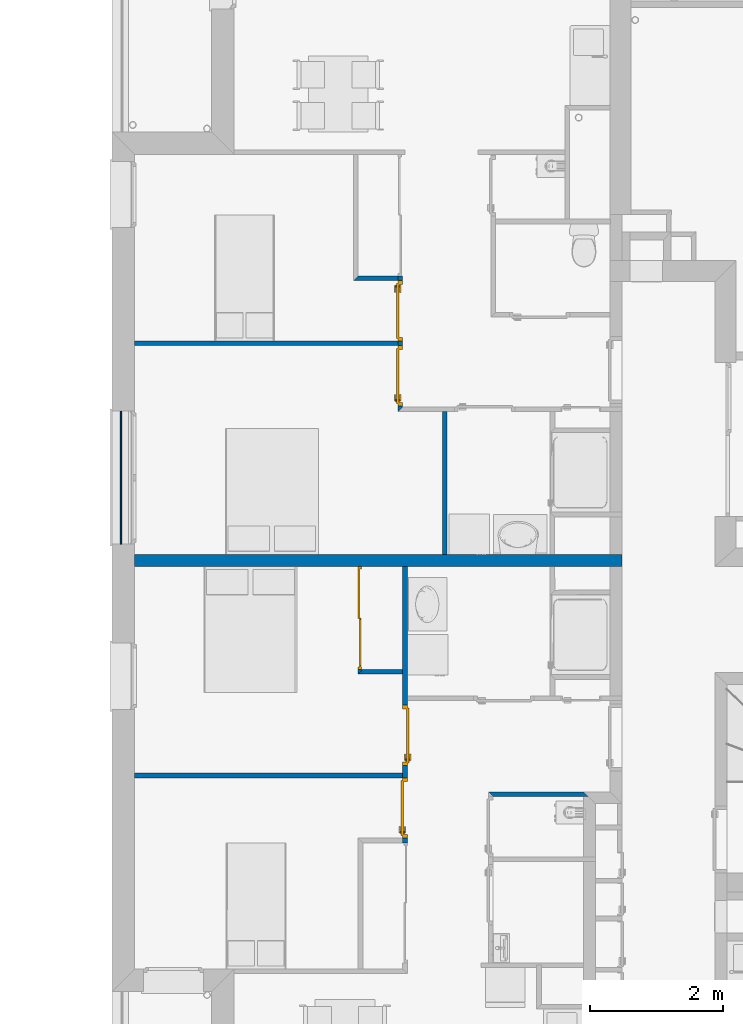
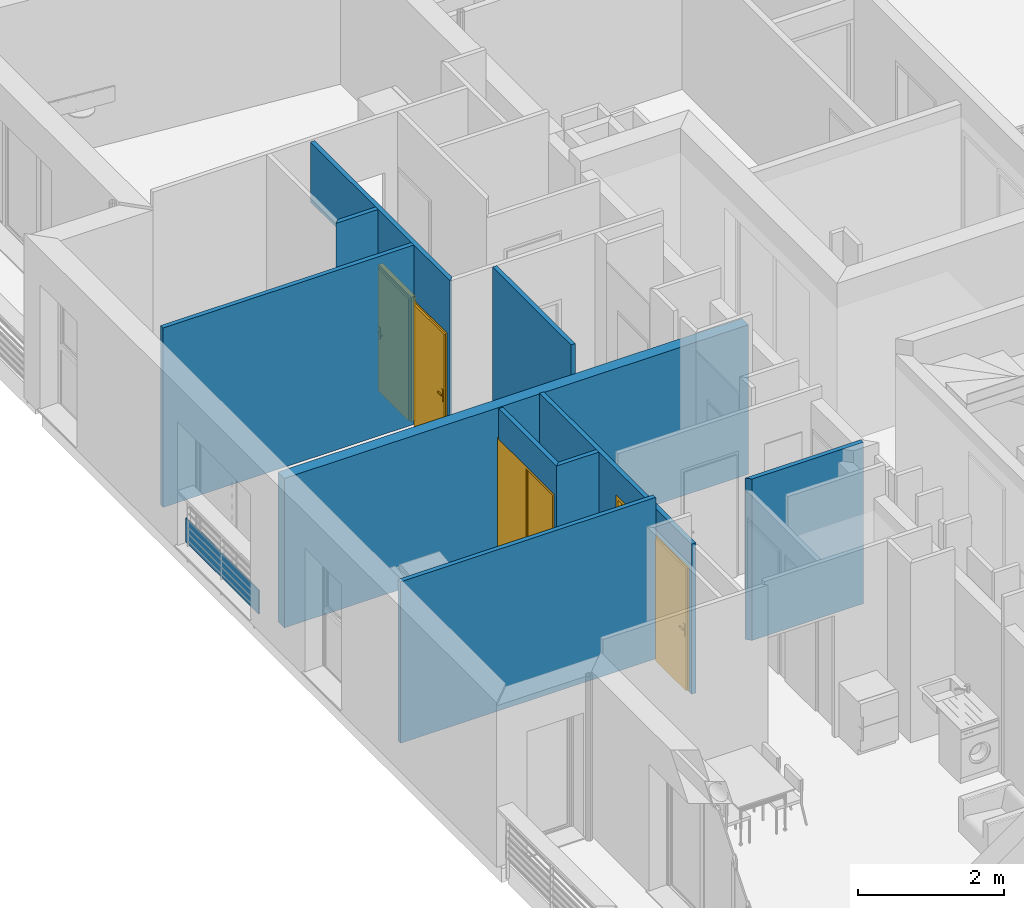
# One storey, part 49 of 171: 11 walls, 5 doors, 6 openings.
"""IFC2X3 building model written with IfcOpenShell, lengths in millimetres."""

from ifc_helpers import new_model, entity, si_unit, converted_unit, derived_unit, money_unit, direction, frame, origin_with_axes, origin_2d_with_axis, place, context, subcontext, project, spatial, polyline, rectangle, outline, extrude, open_shell, faceted_brep, surface_model, source, transform, mapped, material, layer, layer_set, layer_usage, type_object, element, fill, save


model = new_model("IFC2X3")

# Units and contexts
model_context = context("Model", 3, precision=0.01, world=origin_with_axes(), true_north=direction((0.0, 1.0)))
body_context = subcontext(model_context, "Body", "Model", "MODEL_VIEW")
ifc_project = project(units=[si_unit("LENGTHUNIT", "METRE", prefix="MILLI"), si_unit("AREAUNIT", "SQUARE_METRE"), si_unit("VOLUMEUNIT", "CUBIC_METRE"), converted_unit("PLANEANGLEUNIT", "DEGREE", entity("IfcPlaneAngleMeasure", 0.0174532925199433), si_unit("PLANEANGLEUNIT", "RADIAN"), dimensions=[0, 0, 0, 0, 0, 0, 0]), money_unit("USD"), converted_unit("TIMEUNIT", "Year", entity("IfcTimeMeasure", 31557600.0), si_unit("TIMEUNIT", "SECOND"), dimensions=[0, 0, 1, 0, 0, 0, 0]), si_unit("MASSUNIT", "GRAM", prefix="KILO"), si_unit("THERMODYNAMICTEMPERATUREUNIT", "DEGREE_CELSIUS"), si_unit("LUMINOUSINTENSITYUNIT", "LUMEN"), si_unit("ENERGYUNIT", "JOULE", prefix="MEGA"), derived_unit("THERMALCONDUCTANCEUNIT", [(si_unit("POWERUNIT", "WATT"), 1), (si_unit("LENGTHUNIT", "METRE"), -1), (si_unit("THERMODYNAMICTEMPERATUREUNIT", "KELVIN"), -1)]), derived_unit("SPECIFICHEATCAPACITYUNIT", [(si_unit("ENERGYUNIT", "JOULE"), 1), (si_unit("MASSUNIT", "GRAM", prefix="KILO"), -1), (si_unit("THERMODYNAMICTEMPERATUREUNIT", "KELVIN"), -1)]), derived_unit("MASSDENSITYUNIT", [(si_unit("MASSUNIT", "GRAM", prefix="KILO"), 1), (si_unit("VOLUMEUNIT", "CUBIC_METRE"), -1)])], contexts=[model_context])

# Site, building, storey
site_placement = place(None, origin_with_axes())
site = spatial("IfcSite", under=ifc_project, at=site_placement, Name="Site", CompositionType="ELEMENT")
building_placement = place(site_placement, origin_with_axes())
building = spatial("IfcBuilding", under=site, at=building_placement, Name="Bâtiment", CompositionType="ELEMENT")
storey_placement = place(building_placement, frame((0.0, 0.0, 3000.0), z_axis=(0.0, 0.0, 1.0), x_axis=(1.0, 0.0, 0.0)))
storey = spatial("IfcBuildingStorey", under=building, at=storey_placement, Name="rdc", CompositionType="ELEMENT", Elevation=3000.0)

# Wall
ifc_material_1 = material(Name="Parpaing 314940890")
ifc_layer_1 = layer(ifc_material_1, 180.0, ventilated="UNKNOWN")
ifc_layer_set_1 = layer_set([ifc_layer_1], Name="Beton  18 0018356637")
ifc_layer_usage_1 = layer_usage(ifc_layer_set_1, "AXIS2", "POSITIVE", 0.0)
wall_type_1 = type_object("IfcWallType", Name="Beton  18 0018356637 180", PredefinedType="NOTDEFINED")
wall_1_placement = place(storey_placement, frame((2216634.274551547, -632613.5610779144, 0.0), z_axis=(0.0, 0.0, 1.0), x_axis=(0.9999999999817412, 6.042987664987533e-06, 0.0)))
element("IfcWallStandardCase", 1, at=wall_1_placement, inside=storey, type_object=wall_type_1, material=ifc_layer_usage_1, Name="Mur-142", context=body_context, shape_type="SweptSolid", body=[
    extrude(outline(polyline([(340.0000000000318, 0.0), (7678.105647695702, 0.0), (7678.105647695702, 180.0000000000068), (340.0000272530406, 180.0000000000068), (340.0000000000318, 0.0)])), origin_with_axes(), (0.0, 0.0, 1.0), 2500.0),
])

# Wall, openings, doors
ifc_material_2 = material(Name="Hachure solide 268963992")
ifc_layer_2 = layer(ifc_material_2, 70.0, ventilated="UNKNOWN")
ifc_layer_set_2 = layer_set([ifc_layer_2], Name="Cloison 70 0826278243")
ifc_layer_usage_2 = layer_usage(ifc_layer_set_2, "AXIS2", "NEGATIVE", 70.0)
wall_type_2 = type_object("IfcWallType", Name="Cloison 70 0826278243 70", PredefinedType="NOTDEFINED")
wall_2_placement = place(storey_placement, frame((2221010.881835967, -632613.5346301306, 0.0), z_axis=(0.0, 0.0, 1.0), x_axis=(-2.570276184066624e-07, -0.999999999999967, 0.0)))
wall_2 = element("IfcWallStandardCase", 2, at=wall_2_placement, inside=storey, type_object=wall_type_2, material=ifc_layer_usage_2, Name="Mur-149", context=body_context, shape_type="SweptSolid", body=[
    extrude(outline(polyline([(0.0, 0.0), (4162.758897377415, 0.0), (4162.758897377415, 70.00000000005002), (-0.0004410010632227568, 70.00000000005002), (0.0, 0.0)])), origin_with_axes(), (0.0, 0.0, 1.0), 2512.25122490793),
])
opening_1_placement = place(wall_2_placement, frame((2544.415063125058, 0.0, 0.0), z_axis=(0.0, 0.0, 1.0), x_axis=(1.0, 0.0, 0.0)))
opening_1 = element("IfcOpeningElement", 3, at=opening_1_placement, cuts=wall_2, Name="Por-275", context=body_context, shape_type="SweptSolid", body=[
    extrude(rectangle(XDim=910.0, YDim=2080.0, at=origin_2d_with_axis()), frame((0.0, -70.00000000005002, 1040.0), z_axis=(0.0, -1.0, 0.0), x_axis=(-1.0, 0.0, 0.0)), (0.0, 0.0, -1.0), 140.0),
])
opening_2_placement = place(wall_2_placement, frame((3637.758897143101, -1.13686837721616e-10, 0.0), z_axis=(0.0, 0.0, 1.0), x_axis=(1.0, 0.0, 0.0)))
opening_2 = element("IfcOpeningElement", 4, at=opening_2_placement, cuts=wall_2, Name="Por-276", context=body_context, shape_type="SweptSolid", body=[
    extrude(rectangle(XDim=910.0, YDim=2080.0, at=origin_2d_with_axis()), frame((0.0, 70.00000000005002, 1040.0), z_axis=(0.0, -1.0, 0.0), x_axis=(-1.0, 0.0, 0.0)), (0.0, 0.0, 1.0), 140.0),
])
door_style_1 = type_object("IfcDoorStyle", Name="Porte_1v", ConstructionType="NOTDEFINED", OperationType="NOTDEFINED", ParameterTakesPrecedence=False, Sizeable=False)
shared_shape_1 = source(origin_with_axes(), body_context, "Body", "Brep", [
    faceted_brep([(455.0, 0.0, 0.0), (415.0000000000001, 0.0, 0.0), (415.0000000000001, 0.0, 2040.0), (-415.0000000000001, 0.0, 2040.0), (-415.0000000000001, 0.0, 0.0), (-455.0, 0.0, 0.0), (-455.0, 0.0, 2080.0), (455.0, 0.0, 2080.0), (455.0, -70.0, 0.0), (400.0, -70.0, 0.0), (400.0, -15.0, 0.0), (415.0000000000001, -15.0, 0.0), (415.0000000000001, -15.0, 2040.0), (-415.0000000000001, -15.0, 2040.0), (-415.0000000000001, -15.0, 0.0), (-400.0, -15.0, 0.0), (-400.0, -70.0, 0.0), (-455.0, -70.0, 0.0), (-455.0, -70.0, 2080.0), (455.0, -70.0, 2080.0), (-400.0, -70.0, 2025.0), (400.0, -70.0, 2025.0), (400.0, -15.0, 2025.0), (-400.0, -15.0, 2025.0)], [[[0, 1, 2, 3, 4, 5, 6, 7]], [[0, 8, 9, 10, 11, 1]], [[1, 11, 12, 2]], [[2, 12, 13, 3]], [[3, 13, 14, 4]], [[5, 4, 14, 15, 16, 17]], [[18, 6, 5, 17]], [[19, 7, 6, 18]], [[8, 0, 7, 19]], [[9, 8, 19, 18, 17, 16, 20, 21]], [[10, 9, 21, 22]], [[11, 10, 22, 23, 15, 14, 13, 12]], [[23, 20, 16, 15]], [[22, 21, 20, 23]]]),
    faceted_brep([(-350.0000000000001, -15.0, 900.0), (-390.0, -15.0, 900.0), (-390.0, -15.0, 1100.0), (-350.0000000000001, -15.0, 1100.0), (-350.0000000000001, -25.0, 900.0), (-390.0, -25.0, 900.0), (-390.0, -25.0, 1100.0), (-350.0000000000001, -25.0, 1100.0)], [[[0, 1, 2, 3]], [[1, 0, 4, 5]], [[2, 1, 5, 6]], [[3, 2, 6, 7]], [[0, 3, 7, 4]], [[5, 4, 7, 6]]]),
    faceted_brep([(-280.0, -25.0, 1000.0), (-380.0, -25.0, 1000.0), (-380.0, -25.0, 1020.0), (-280.0, -25.0, 1020.0), (-280.0, -45.0, 1000.0), (-380.0, -45.0, 1000.0), (-380.0, -45.0, 1020.0), (-280.0, -45.0, 1020.0)], [[[0, 1, 2, 3]], [[1, 0, 4, 5]], [[2, 1, 5, 6]], [[3, 2, 6, 7]], [[0, 3, 7, 4]], [[5, 4, 7, 6]]]),
    faceted_brep([(-350.0000000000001, 35.0, 900.0), (-390.0, 35.0, 900.0), (-390.0, 35.0, 1100.0), (-350.0000000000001, 35.0, 1100.0), (-350.0000000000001, 25.0, 900.0), (-390.0, 25.0, 900.0), (-390.0, 25.0, 1100.0), (-350.0000000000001, 25.0, 1100.0)], [[[0, 1, 2, 3]], [[1, 0, 4, 5]], [[2, 1, 5, 6]], [[3, 2, 6, 7]], [[0, 3, 7, 4]], [[5, 4, 7, 6]]]),
    faceted_brep([(-280.0, 55.00000000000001, 1000.0), (-380.0, 55.00000000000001, 1000.0), (-380.0, 55.00000000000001, 1020.0), (-280.0, 55.00000000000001, 1020.0), (-280.0, 35.0, 1000.0), (-380.0, 35.0, 1000.0), (-380.0, 35.0, 1020.0), (-280.0, 35.0, 1020.0)], [[[0, 1, 2, 3]], [[1, 0, 4, 5]], [[2, 1, 5, 6]], [[3, 2, 6, 7]], [[0, 3, 7, 4]], [[5, 4, 7, 6]]]),
    faceted_brep([(-415.0000000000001, 25.0, 0.0), (415.0000000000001, 25.0, 0.0), (415.0000000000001, -15.0, 0.0), (-415.0000000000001, -15.0, 0.0), (-415.0000000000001, 25.0, 2040.0), (415.0000000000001, 25.0, 2040.0), (415.0000000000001, -15.0, 2040.0), (-415.0000000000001, -15.0, 2040.0)], [[[0, 1, 2, 3]], [[0, 4, 5, 1]], [[1, 5, 6, 2]], [[3, 2, 6, 7]], [[4, 0, 3, 7]], [[5, 4, 7, 6]]]),
])
door_1_placement = place(opening_2_placement, frame((415.0000000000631, 0.0, 0.0), z_axis=(0.0, 0.0, 1.0), x_axis=(-1.0, 0.0, 0.0)))
door_1 = element("IfcDoor", 5, at=door_1_placement, inside=storey, type_object=door_style_1, Name="Por-276", OverallHeight=2040.0, OverallWidth=830.0, context=body_context, shape_type="MappedRepresentation", body=[
    mapped(shared_shape_1, transform((415.0000000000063, 0.0, 0.0))),
])
fill(opening_2, door_1)
shared_shape_2 = source(origin_with_axes(), body_context, "Body", "Brep", [
    faceted_brep([(-454.9999999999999, 0.0, 0.0), (-454.9999999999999, 0.0, 2080.0), (454.9999999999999, 0.0, 2080.0), (454.9999999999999, 0.0, 0.0), (414.9999999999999, 0.0, 0.0), (414.9999999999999, 0.0, 2040.0), (-414.9999999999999, 0.0, 2040.0), (-414.9999999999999, 0.0, 0.0), (-454.9999999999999, -69.99999999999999, 0.0), (-454.9999999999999, -69.99999999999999, 2080.0), (454.9999999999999, -69.99999999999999, 2080.0), (454.9999999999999, -69.99999999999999, 0.0), (399.9999999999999, -69.99999999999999, 0.0), (399.9999999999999, -15.0, 0.0), (414.9999999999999, -15.0, 0.0), (414.9999999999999, -15.0, 2040.0), (-414.9999999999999, -14.99999999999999, 2040.0), (-414.9999999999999, -14.99999999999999, 0.0), (-399.9999999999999, -14.99999999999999, 0.0), (-399.9999999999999, -69.99999999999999, 0.0), (-399.9999999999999, -69.99999999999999, 2025.0), (399.9999999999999, -69.99999999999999, 2025.0), (399.9999999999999, -15.0, 2025.0), (-399.9999999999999, -14.99999999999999, 2025.0)], [[[0, 1, 2, 3, 4, 5, 6, 7]], [[8, 9, 1, 0]], [[9, 10, 2, 1]], [[10, 11, 3, 2]], [[3, 11, 12, 13, 14, 4]], [[5, 4, 14, 15]], [[6, 5, 15, 16]], [[7, 6, 16, 17]], [[0, 7, 17, 18, 19, 8]], [[19, 20, 21, 12, 11, 10, 9, 8]], [[22, 13, 12, 21]], [[17, 16, 15, 14, 13, 22, 23, 18]], [[18, 23, 20, 19]], [[23, 22, 21, 20]]]),
    faceted_brep([(350.0, -15.0, 900.0), (350.0, -15.0, 1100.0), (389.9999999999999, -15.0, 1100.0), (389.9999999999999, -15.0, 900.0), (350.0, -25.0, 900.0), (350.0, -25.0, 1100.0), (389.9999999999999, -25.0, 1100.0), (389.9999999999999, -25.0, 900.0)], [[[0, 1, 2, 3]], [[0, 4, 5, 1]], [[1, 5, 6, 2]], [[2, 6, 7, 3]], [[3, 7, 4, 0]], [[7, 6, 5, 4]]]),
    faceted_brep([(279.9999999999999, -25.0, 1000.0), (279.9999999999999, -25.0, 1020.0), (379.9999999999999, -25.0, 1020.0), (379.9999999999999, -25.0, 1000.0), (279.9999999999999, -45.0, 1000.0), (279.9999999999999, -45.0, 1020.0), (379.9999999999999, -45.0, 1020.0), (379.9999999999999, -45.0, 1000.0)], [[[0, 1, 2, 3]], [[0, 4, 5, 1]], [[1, 5, 6, 2]], [[2, 6, 7, 3]], [[3, 7, 4, 0]], [[7, 6, 5, 4]]]),
    faceted_brep([(350.0, 34.99999999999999, 900.0), (350.0, 34.99999999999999, 1100.0), (389.9999999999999, 34.99999999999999, 1100.0), (389.9999999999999, 34.99999999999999, 900.0), (350.0, 24.99999999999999, 900.0), (350.0, 24.99999999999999, 1100.0), (389.9999999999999, 24.99999999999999, 1100.0), (389.9999999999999, 24.99999999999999, 900.0)], [[[0, 1, 2, 3]], [[0, 4, 5, 1]], [[1, 5, 6, 2]], [[2, 6, 7, 3]], [[3, 7, 4, 0]], [[7, 6, 5, 4]]]),
    faceted_brep([(279.9999999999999, 54.99999999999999, 1000.0), (279.9999999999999, 54.99999999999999, 1020.0), (379.9999999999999, 54.99999999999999, 1020.0), (379.9999999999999, 54.99999999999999, 1000.0), (279.9999999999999, 34.99999999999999, 1000.0), (279.9999999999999, 34.99999999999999, 1020.0), (379.9999999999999, 34.99999999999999, 1020.0), (379.9999999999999, 34.99999999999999, 1000.0)], [[[0, 1, 2, 3]], [[0, 4, 5, 1]], [[1, 5, 6, 2]], [[2, 6, 7, 3]], [[3, 7, 4, 0]], [[7, 6, 5, 4]]]),
    faceted_brep([(414.9999999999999, 24.99999999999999, 0.0), (414.9999999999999, -15.0, 0.0), (-414.9999999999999, -14.99999999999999, 0.0), (-414.9999999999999, 25.0, 0.0), (414.9999999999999, 24.99999999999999, 2040.0), (414.9999999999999, -15.0, 2040.0), (-414.9999999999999, -14.99999999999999, 2040.0), (-414.9999999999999, 25.0, 2040.0)], [[[0, 1, 2, 3]], [[4, 5, 1, 0]], [[1, 5, 6, 2]], [[3, 2, 6, 7]], [[0, 3, 7, 4]], [[7, 6, 5, 4]]]),
])
door_2_placement = place(opening_1_placement, frame((-415.0000000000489, -1.13686837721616e-10, 0.0), z_axis=(0.0, 0.0, 1.0), x_axis=(1.0, 0.0, 0.0)))
door_2 = element("IfcDoor", 6, at=door_2_placement, inside=storey, type_object=door_style_1, Name="Por-275", OverallHeight=2040.0, OverallWidth=830.0, context=body_context, shape_type="MappedRepresentation", body=[
    mapped(shared_shape_2, transform((415.0000000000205, 70.00000000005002, 0.0))),
])
fill(opening_1, door_2)

# Walls
ifc_layer_usage_3 = layer_usage(ifc_layer_set_2, "AXIS2", "POSITIVE", -70.0)
wall_3_placement = place(storey_placement, frame((2221610.801172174, -632613.534630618, 0.0), z_axis=(0.0, 0.0, 1.0), x_axis=(9.654924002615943e-08, 0.9999999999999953, 0.0)))
element("IfcWallStandardCase", 7, at=wall_3_placement, inside=storey, type_object=wall_type_2, material=ifc_layer_usage_3, Name="Mur-149", context=body_context, shape_type="SweptSolid", body=[
    extrude(outline(polyline([(180.0040555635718, -70.00000000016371), (2330.612741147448, -70.00000000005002), (2330.612734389, 0.0), (180.0036257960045, 0.0), (180.0040555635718, -70.00000000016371)])), origin_with_axes(), (0.0, 0.0, 1.0), 3000.0),
])
ifc_layer_usage_4 = layer_usage(ifc_layer_set_2, "AXIS2", "NEGATIVE", 70.0)
wall_4_placement = place(storey_placement, frame((2224312.39906677, -636007.2981221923, 0.0), z_axis=(0.0, 0.0, 1.0), x_axis=(-0.9999999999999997, 2.755947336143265e-08, 0.0)))
element("IfcWallStandardCase", 8, at=wall_4_placement, inside=storey, type_object=wall_type_2, material=ifc_layer_usage_4, Name="Mur-149", context=body_context, shape_type="SweptSolid", body=[
    extrude(outline(polyline([(180.0000000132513, 0.0), (2009.999836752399, 0.0), (1939.999852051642, 69.99999999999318), (179.9993479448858, 69.99999999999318), (180.0000000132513, 0.0)])), origin_with_axes(), (0.0, 0.0, 1.0), 2700.0),
])
ifc_layer_usage_5 = layer_usage(ifc_layer_set_2, "AXIS2", "NEGATIVE", 70.0)
wall_5_placement = place(storey_placement, frame((2221010.880061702, -635726.2935272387, 0.0), z_axis=(0.0, 0.0, 1.0), x_axis=(-0.9999999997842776, 2.077125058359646e-05, 0.0)))
element("IfcWallStandardCase", 9, at=wall_5_placement, inside=storey, type_object=wall_type_2, material=ifc_layer_usage_5, Name="Mur-149", context=body_context, shape_type="SweptSolid", body=[
    extrude(outline(polyline([(-0.0009742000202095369, 0.0), (4036.587172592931, 0.0), (4036.585306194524, 69.99999999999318), (-0.002410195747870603, 69.99999999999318), (-0.0009742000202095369, 0.0)])), origin_with_axes(), (0.0, 0.0, 1.0), 2700.0),
])

# Wall, openings, doors
ifc_layer_usage_6 = layer_usage(ifc_layer_set_2, "AXIS2", "POSITIVE", -70.0)
wall_6_placement = place(storey_placement, frame((2220940.801403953, -630212.921896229, 0.0), z_axis=(0.0, 0.0, 1.0), x_axis=(9.654924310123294e-08, 0.9999999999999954, 0.0)))
wall_6 = element("IfcWallStandardCase", 10, at=wall_6_placement, inside=storey, type_object=wall_type_2, material=ifc_layer_usage_6, Name="Mur-149", context=body_context, shape_type="SweptSolid", body=[
    extrude(outline(polyline([(6.758448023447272e-06, -70.00000000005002), (3761.707347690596, -70.00000000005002), (3761.707347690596, 0.0), (-70.00000000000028, 0.0), (6.758448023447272e-06, -70.00000000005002)])), origin_with_axes(), (0.0, 0.0, 1.0), 3000.0),
])
opening_3_placement = place(wall_6_placement, frame((1447.185628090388, 2.273736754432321e-10, 0.0), z_axis=(0.0, 0.0, 1.0), x_axis=(1.0, 0.0, 0.0)))
opening_3 = element("IfcOpeningElement", 11, at=opening_3_placement, cuts=wall_6, Name="Por-276", context=body_context, shape_type="SweptSolid", body=[
    extrude(rectangle(XDim=910.0, YDim=2080.0, at=origin_2d_with_axis()), frame((0.0, -70.00000000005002, 1040.0), z_axis=(9.654924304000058e-08, -0.9999999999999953, 0.0), x_axis=(-0.9999999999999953, -9.654924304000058e-08, 0.0)), (0.0, 0.0, -1.0), 140.0),
])
opening_4_placement = place(wall_6_placement, frame((467.1856280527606, 2.273736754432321e-10, 0.0), z_axis=(0.0, 0.0, 1.0), x_axis=(1.0, 0.0, 0.0)))
opening_4 = element("IfcOpeningElement", 12, at=opening_4_placement, cuts=wall_6, Name="Por-275", context=body_context, shape_type="SweptSolid", body=[
    extrude(rectangle(XDim=910.0, YDim=2080.0, at=origin_2d_with_axis()), frame((0.0, -70.00000000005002, 1040.0), z_axis=(-9.654924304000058e-08, 0.9999999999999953, 0.0), x_axis=(0.9999999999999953, 9.654924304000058e-08, 0.0)), (0.0, 0.0, 1.0), 140.0),
])
opening_5_placement = place(wall_6_placement, frame((2886.946422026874, 2.273736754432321e-10, 0.0), z_axis=(0.0, 0.0, 1.0), x_axis=(1.0, 0.0, 0.0)))
element("IfcOpeningElement", 13, at=opening_5_placement, cuts=wall_6, Name="Por-321", context=body_context, shape_type="SweptSolid", body=[
    extrude(rectangle(XDim=1829.521851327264, YDim=2000.0, at=origin_2d_with_axis()), frame((-6.758462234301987e-06, 0.0002787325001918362, 1000.0), z_axis=(9.654924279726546e-08, -0.9999999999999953, 0.0), x_axis=(0.9999999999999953, 9.654924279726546e-08, 0.0)), (0.0, 0.0, -1.0), 70.0),
    extrude(rectangle(XDim=1829.521851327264, YDim=2000.0, at=origin_2d_with_axis()), frame((-6.758462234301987e-06, 0.0002787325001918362, 1000.0), z_axis=(-9.654924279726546e-08, 0.9999999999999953, 0.0), x_axis=(0.9999999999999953, 9.654924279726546e-08, 0.0)), (0.0, 0.0, -1.0), 70.0),
])
door_3_placement = place(opening_4_placement, frame((-415.0000000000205, 2.273736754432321e-10, 0.0), z_axis=(0.0, 0.0, 1.0), x_axis=(1.0, 0.0, 0.0)))
door_3 = element("IfcDoor", 14, at=door_3_placement, inside=storey, type_object=door_style_1, Name="Por-275", OverallHeight=2040.0, OverallWidth=830.0, context=body_context, shape_type="MappedRepresentation", body=[
    mapped(shared_shape_1, transform((414.9999932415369, 4.510638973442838e-05, 0.0))),
])
fill(opening_4, door_3)
door_4_placement = place(opening_3_placement, frame((-415.000000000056, -1.13686837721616e-10, 0.0), z_axis=(0.0, 0.0, 1.0), x_axis=(1.0, 0.0, 0.0)))
door_4 = element("IfcDoor", 15, at=door_4_placement, inside=storey, type_object=door_style_1, Name="Por-276", OverallHeight=2040.0, OverallWidth=830.0, context=body_context, shape_type="MappedRepresentation", body=[
    mapped(shared_shape_2, transform((414.999993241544, 0.0001397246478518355, 0.0))),
])
fill(opening_3, door_4)

# Walls
ifc_layer_usage_7 = layer_usage(ifc_layer_set_2, "AXIS2", "POSITIVE", -70.0)
wall_7_placement = place(storey_placement, frame((2221010.800412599, -629290.7358451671, 0.0), z_axis=(0.0, 0.0, 1.0), x_axis=(-0.9999999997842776, -2.077125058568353e-05, 0.0)))
element("IfcWallStandardCase", 16, at=wall_7_placement, inside=storey, type_object=wall_type_2, material=ifc_layer_usage_7, Name="Mur-149", context=body_context, shape_type="SweptSolid", body=[
    extrude(outline(polyline([(0.0, -70.00000000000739), (4036.544678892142, -70.00000000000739), (4036.544678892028, 0.0), (0.0, 0.0), (0.0, -70.00000000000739)])), origin_with_axes(), (0.0, 0.0, 1.0), 3000.0),
])
ifc_layer_usage_8 = layer_usage(ifc_layer_set_2, "AXIS2", "POSITIVE", -70.0)
wall_8_placement = place(storey_placement, frame((2220940.800115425, -628310.7362681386, 0.0), z_axis=(0.0, 0.0, 1.0), x_axis=(-0.9999999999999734, -2.308093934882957e-07, 0.0)))
element("IfcWallStandardCase", 17, at=wall_8_placement, inside=storey, type_object=wall_type_2, material=ifc_layer_usage_8, Name="Mur-149", context=body_context, shape_type="SweptSolid", body=[
    extrude(outline(polyline([(-0.001495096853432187, -70.00000000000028), (599.9999211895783, -70.00000000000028), (669.9999999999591, 0.0), (-0.001472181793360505, 0.0), (-0.001495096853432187, -70.00000000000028)])), origin_with_axes(), (0.0, 0.0, 1.0), 3000.0),
])
ifc_layer_usage_9 = layer_usage(ifc_layer_set_2, "AXIS2", "NEGATIVE", 70.0)
wall_9_placement = place(storey_placement, frame((2220340.881418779, -634236.6584759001, 0.0), z_axis=(0.0, 0.0, 1.0), x_axis=(0.999999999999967, -2.570276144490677e-07, 0.0)))
element("IfcWallStandardCase", 18, at=wall_9_placement, inside=storey, type_object=wall_type_2, material=ifc_layer_usage_9, Name="Mur-149", context=body_context, shape_type="SweptSolid", body=[
    extrude(outline(polyline([(1.13686837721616e-10, 0.0), (670.0000000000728, 0.0), (670.0000000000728, 70.00000000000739), (70.00000000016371, 69.99999999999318), (1.13686837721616e-10, 0.0)])), origin_with_axes(), (0.0, 0.0, 1.0), 2512.25122490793),
])

# Wall, opening, door
ifc_layer_usage_10 = layer_usage(ifc_layer_set_2, "AXIS2", "NEGATIVE", 70.0)
wall_10_placement = place(storey_placement, frame((2220340.881825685, -632653.5382379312, 0.0), z_axis=(0.0, 0.0, 1.0), x_axis=(-2.570276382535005e-07, -0.999999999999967, 0.0)))
wall_10 = element("IfcWallStandardCase", 19, at=wall_10_placement, inside=storey, type_object=wall_type_2, material=ifc_layer_usage_10, Name="Mur-149", context=body_context, shape_type="SweptSolid", body=[
    extrude(outline(polyline([(0.0, 0.0), (1583.120237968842, 0.0), (1513.120237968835, 70.00000000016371), (0.0, 70.00000000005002), (0.0, 0.0)])), origin_with_axes(), (0.0, 0.0, 1.0), 2512.25122490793),
])
opening_6_placement = place(wall_10_placement, frame((736.560118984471, -2.273736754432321e-10, 0.0), z_axis=(0.0, 0.0, 1.0), x_axis=(1.0, 0.0, 0.0)))
opening_6 = element("IfcOpeningElement", 20, at=opening_6_placement, cuts=wall_10, Name="Por-329", context=body_context, shape_type="SweptSolid", body=[
    extrude(rectangle(XDim=1553.120237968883, YDim=2000.0, at=origin_2d_with_axis()), frame((0.0, 0.0, 1000.0), z_axis=(0.0, 1.0, 0.0), x_axis=(1.0, 0.0, 0.0)), (0.0, 0.0, -1.0), 70.0),
    extrude(rectangle(XDim=1553.120237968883, YDim=2000.0, at=origin_2d_with_axis()), frame((0.0, 1.13686837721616e-10, 1000.0), z_axis=(0.0, -1.0, 0.0), x_axis=(1.0, 0.0, 0.0)), (0.0, 0.0, -1.0), 70.0),
])
door_style_2 = type_object("IfcDoorStyle", ConstructionType="NOTDEFINED", OperationType="NOTDEFINED", ParameterTakesPrecedence=False, Sizeable=False)
shared_shape_3 = source(origin_with_axes(), body_context, "Body", "SurfaceModel", [
    faceted_brep([(776.5601189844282, 0.0, 0.0), (736.5601189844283, 0.0, 0.0), (736.5601189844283, 0.0, 1960.0), (-736.5601189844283, 0.0, 1960.0), (-736.5601189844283, 0.0, 0.0), (-776.5601189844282, 0.0, 0.0), (-776.5601189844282, 0.0, 2000.0), (776.5601189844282, 0.0, 2000.0), (776.5601189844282, -49.99999999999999, 0.0), (736.5601189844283, -49.99999999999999, 0.0), (736.5601189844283, -9.999999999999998, 0.0), (736.5601189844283, -9.999999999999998, 1960.0), (-736.5601189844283, -9.999999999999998, 1960.0), (-736.5601189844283, -9.999999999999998, 0.0), (-736.5601189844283, -49.99999999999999, 0.0), (-776.5601189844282, -49.99999999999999, 0.0), (-776.5601189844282, -49.99999999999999, 2000.0), (776.5601189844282, -49.99999999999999, 2000.0), (-736.5601189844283, -49.99999999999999, 1960.0), (736.5601189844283, -49.99999999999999, 1960.0)], [[[0, 1, 2, 3, 4, 5, 6, 7]], [[0, 8, 9, 10, 1]], [[1, 10, 11, 2]], [[2, 11, 12, 3]], [[3, 12, 13, 4]], [[5, 4, 13, 14, 15]], [[16, 6, 5, 15]], [[17, 7, 6, 16]], [[8, 0, 7, 17]], [[9, 8, 17, 16, 15, 14, 18, 19]], [[10, 9, 19, 11]], [[11, 19, 18, 12]], [[12, 18, 14, 13]]]),
    faceted_brep([(-736.5601189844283, -20.0, 0.0), (0.0, -20.0, 0.0), (0.0, -39.99999999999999, 0.0), (-736.5601189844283, -39.99999999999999, 0.0), (-736.5601189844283, -20.0, 1960.0), (0.0, -20.0, 1960.0), (-716.5601189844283, -20.0, 20.0), (-20.00000000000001, -20.0, 20.0), (-20.00000000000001, -20.0, 1940.0), (-716.5601189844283, -20.0, 1940.0), (0.0, -39.99999999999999, 1960.0), (-736.5601189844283, -39.99999999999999, 1960.0), (-716.5601189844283, -39.99999999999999, 20.0), (-716.5601189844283, -39.99999999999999, 1940.0), (-20.00000000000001, -39.99999999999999, 1940.0), (-20.00000000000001, -39.99999999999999, 20.0)], [[[0, 1, 2, 3]], [[0, 4, 5, 1], [6, 7, 8, 9]], [[1, 5, 10, 2]], [[3, 2, 10, 11], [12, 13, 14, 15]], [[4, 0, 3, 11]], [[5, 4, 11, 10]], [[7, 6, 12, 15]], [[8, 7, 15, 14]], [[9, 8, 14, 13]], [[6, 9, 13, 12]]]),
    surface_model("IfcShellBasedSurfaceModel", [(-716.5601189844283, -29.99999999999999, 20.0), (-20.00000000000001, -29.99999999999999, 20.0), (-20.00000000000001, -29.99999999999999, 1940.0), (-716.5601189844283, -29.99999999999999, 1940.0)], [open_shell([[[0, 1, 2, 3]]])]),
    faceted_brep([(-5.000000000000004, 0.0, 0.0), (736.5601189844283, 0.0, 0.0), (736.5601189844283, -20.0, 0.0), (-5.000000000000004, -20.0, 0.0), (-5.000000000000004, 0.0, 1960.0), (736.5601189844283, 0.0, 1960.0), (736.5601189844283, -20.0, 1960.0), (-5.000000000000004, -20.0, 1960.0)], [[[0, 1, 2, 3]], [[0, 4, 5, 1]], [[1, 5, 6, 2]], [[3, 2, 6, 7]], [[4, 0, 3, 7]], [[5, 4, 7, 6]]]),
])
door_5_placement = place(opening_6_placement, frame((776.5601189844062, -1.13686837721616e-10, 0.0), z_axis=(0.0, 0.0, 1.0), x_axis=(-1.0, 0.0, 0.0)))
door_5 = element("IfcDoor", 21, at=door_5_placement, inside=storey, type_object=door_style_2, Name="Por-329", OverallHeight=2000.0, OverallWidth=1553.12, context=body_context, shape_type="MappedRepresentation", body=[
    mapped(shared_shape_3, transform((776.5601189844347, 1.13686837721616e-10, 0.0))),
])
fill(opening_6, door_5)

# Wall
ifc_material_3 = material(Name="MANQUANT")
ifc_layer_3 = layer(ifc_material_3, 20.0, ventilated="UNKNOWN")
ifc_layer_set_3 = layer_set([ifc_layer_3], Name="MANQUANT 20")
ifc_layer_usage_11 = layer_usage(ifc_layer_set_3, "AXIS2", "POSITIVE", -20.0)
wall_type_3 = type_object("IfcWallType", Name="MANQUANT 20", PredefinedType="NOTDEFINED")
wall_11_placement = place(storey_placement, frame((2216759.442105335, -632276.9231249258, 100.0000000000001), z_axis=(0.0, 0.0, 1.0), x_axis=(0.0, 1.0, 0.0)))
element("IfcWallStandardCase", 22, at=wall_11_placement, inside=storey, type_object=wall_type_3, material=ifc_layer_usage_11, Name="Mur-150", context=body_context, shape_type="SweptSolid", body=[
    extrude(outline(polyline([(0.0, -19.99999999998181), (1999.999999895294, -19.99999999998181), (1999.999999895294, 0.0), (0.0, 0.0), (0.0, -19.99999999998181)])), origin_with_axes(), (0.0, 0.0, 1.0), 400.0),
])

save(model, "model.ifc")
